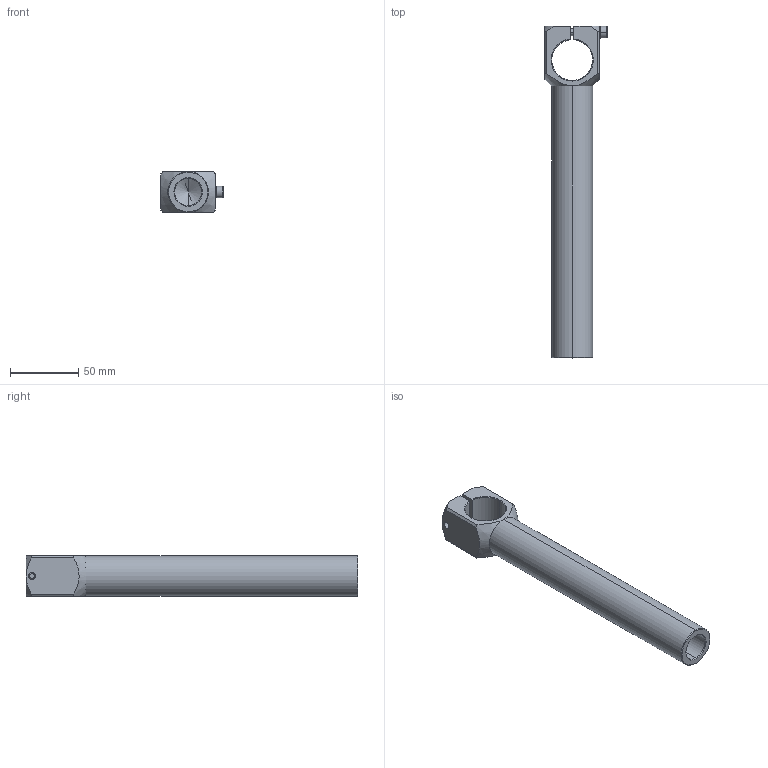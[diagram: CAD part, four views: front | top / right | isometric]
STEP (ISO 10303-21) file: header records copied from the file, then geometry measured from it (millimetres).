
FILE_DESCRIPTION (( 'STEP AP214' ), '1' );
FILE_NAME ('SCA1-3030L200.STEP', '2019-11-07T05:54:44', ( '微软用户' ), ( '微软中国' ), 'SwSTEP 2.0', 'SolidWorks 2016', '' );
FILE_SCHEMA (( 'AUTOMOTIVE_DESIGN' ));
Length unit declared in the file: millimetre
Products named in the file (1): SCA1-3030L200
Bounding box: 45.6 x 244 x 30 mm (x, y, z)
Volume: 111537.1 mm3; surface area: 41560.2 mm2
Topology: 3 solids, 3 shells, 256 faces, 722 edges, 471 vertices
Faces by surface type: plane 211, cylinder 23, cone 20, bspline 2
Entity records: 11406 total; most frequent: CARTESIAN_POINT 1735, DIRECTION 1454, ORIENTED_EDGE 1440, EDGE_CURVE 720, AXIS2_PLACEMENT_3D 501, VERTEX_POINT 471, LINE 452, VECTOR 452
